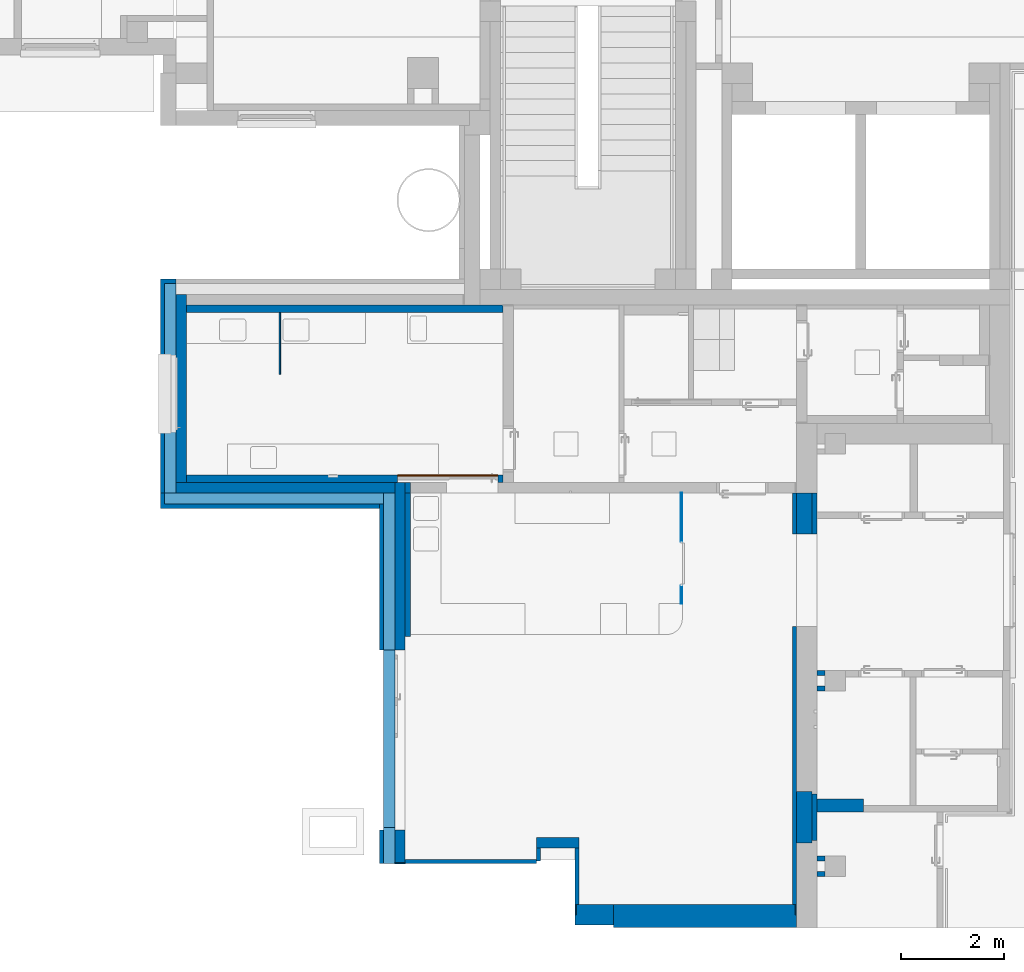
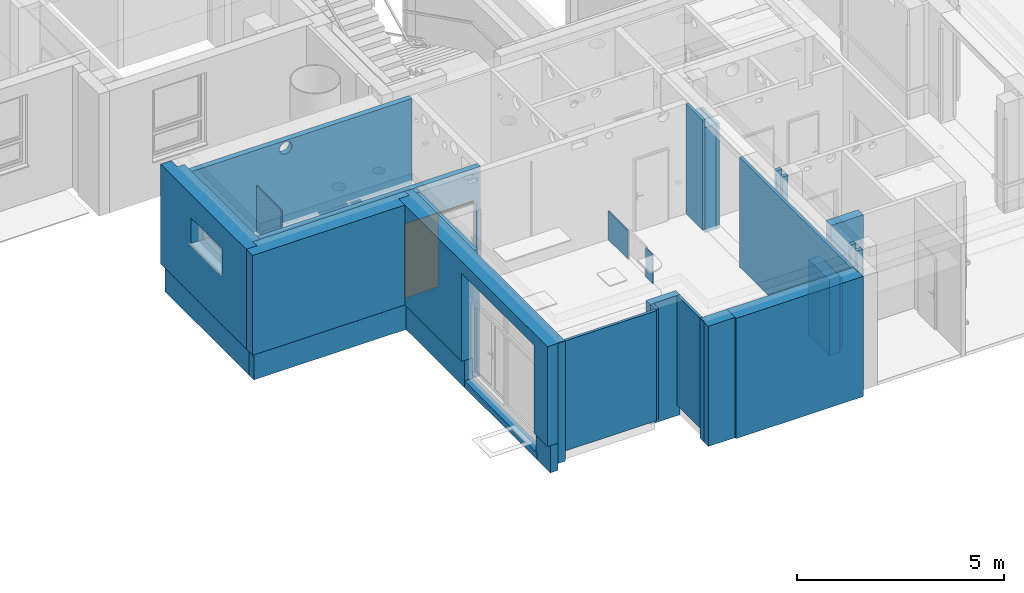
# One storey, part 26 of 140: 33 walls, 1 proxy, 7 openings.
"""IFC4 building model written with IfcOpenShell, lengths in metres."""

from ifc_helpers import new_model, entity, si_unit, converted_unit, derived_unit, frame, frame_2d, origin, origin_with_axes, place, context, subcontext, project, spatial, polyline, rectangle, outline, extrude, clip, bounded_halfspace, faceted_brep, material, layer, layer_set, layer_usage, element, fill, save


model = new_model("IFC4")

# Units and contexts
model_context = context("Model", 3, precision=1e-05, world=origin())
body_context = subcontext(model_context, "Body", "Model", "MODEL_VIEW")
ifc_project = project(units=[si_unit("LENGTHUNIT", "METRE"), si_unit("AREAUNIT", "SQUARE_METRE"), si_unit("VOLUMEUNIT", "CUBIC_METRE"), si_unit("MASSUNIT", "GRAM", prefix="KILO"), converted_unit("PLANEANGLEUNIT", "DEGREE", entity("IfcPlaneAngleMeasure", 0.0174532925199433), si_unit("PLANEANGLEUNIT", "RADIAN"), dimensions=[0, 0, 0, 0, 0, 0, 0]), derived_unit("THERMALTRANSMITTANCEUNIT", [(si_unit("POWERUNIT", "WATT"), 1), (si_unit("THERMODYNAMICTEMPERATUREUNIT", "KELVIN"), -1), (si_unit("LENGTHUNIT", "METRE"), -2)]), derived_unit("VOLUMETRICFLOWRATEUNIT", [(si_unit("LENGTHUNIT", "METRE"), 3), (converted_unit("TIMEUNIT", "hour", entity("IfcTimeMeasure", 3600.0), si_unit("TIMEUNIT", "SECOND"), dimensions=[0, 0, 1, 0, 0, 0, 0]), -1), (si_unit("LENGTHUNIT", "METRE"), -1)])], contexts=[model_context])

# Site, building, storey
site_placement = place(None, origin())
site = spatial("IfcSite", under=ifc_project, at=site_placement, Name="3. ASŘ", CompositionType="ELEMENT")
building_placement = place(site_placement, origin())
building = spatial("IfcBuilding", under=site, at=building_placement, Name="Pavilon C", CompositionType="ELEMENT")
storey_placement = place(building_placement, origin())
storey = spatial("IfcBuildingStorey", under=building, at=storey_placement, Name="Půdorys 1.NP", CompositionType="ELEMENT", Elevation=0.0)

# Walls
ifc_material_1 = material(Name="STÁVAJÍC KCE")
ifc_layer_1 = layer(ifc_material_1, 0.1)
ifc_layer_set_1 = layer_set([ifc_layer_1])
ifc_layer_usage_1 = layer_usage(ifc_layer_set_1, "AXIS2", "POSITIVE", 0.0)
wall_1_placement = place(storey_placement, frame((37.2, -12.0, -0.1)))
element("IfcWall", 1, at=wall_1_placement, inside=storey, material=ifc_layer_usage_1, Name="STÁVAJÍCÍ KCE", context=body_context, shape_type="SweptSolid", body=[
    extrude(rectangle(XDim=0.15, YDim=0.1, at=frame_2d((0.075, 0.05), x_axis=(1.0, 0.0))), origin_with_axes(), (0.0, 0.0, 1.0), 3.35),
])
ifc_material_2 = material(Name="STÁVAJÍC KCE")
ifc_layer_2 = layer(ifc_material_2, 0.1)
ifc_layer_set_2 = layer_set([ifc_layer_2])
ifc_layer_usage_2 = layer_usage(ifc_layer_set_2, "AXIS2", "POSITIVE", 0.0)
wall_2_placement = place(storey_placement, frame((37.2, -15.6, -0.1)))
element("IfcWall", 2, at=wall_2_placement, inside=storey, material=ifc_layer_usage_2, Name="STÁVAJÍCÍ KCE", context=body_context, shape_type="SweptSolid", body=[
    extrude(rectangle(XDim=0.15, YDim=0.1, at=frame_2d((0.075, 0.05), x_axis=(1.0, 0.0))), origin_with_axes(), (0.0, 0.0, 1.0), 3.35),
])
ifc_material_3 = material(Name="STÁVAJÍC KCE")
ifc_layer_3 = layer(ifc_material_3, 0.1)
ifc_layer_set_3 = layer_set([ifc_layer_3])
ifc_layer_usage_3 = layer_usage(ifc_layer_set_3, "AXIS2", "POSITIVE", 0.0)
wall_3_placement = place(storey_placement, frame((37.35, -11.6, -0.1), z_axis=(0.0, 0.0, 1.0), x_axis=(-1.0, 0.0, 0.0)))
element("IfcWall", 3, at=wall_3_placement, inside=storey, material=ifc_layer_usage_3, Name="STÁVAJÍCÍ KCE", context=body_context, shape_type="SweptSolid", body=[
    extrude(rectangle(XDim=0.15, YDim=0.1, at=frame_2d((0.075, 0.05), x_axis=(1.0, 0.0))), origin_with_axes(), (0.0, 0.0, 1.0), 3.35),
])
ifc_material_4 = material(Name="STÁVAJÍC KCE")
ifc_layer_4 = layer(ifc_material_4, 0.1)
ifc_layer_set_4 = layer_set([ifc_layer_4])
ifc_layer_usage_4 = layer_usage(ifc_layer_set_4, "AXIS2", "POSITIVE", 0.0)
wall_4_placement = place(storey_placement, frame((37.35, -15.2, -0.1), z_axis=(0.0, 0.0, 1.0), x_axis=(-1.0, 0.0, 0.0)))
element("IfcWall", 4, at=wall_4_placement, inside=storey, material=ifc_layer_usage_4, Name="STÁVAJÍCÍ KCE", context=body_context, shape_type="SweptSolid", body=[
    extrude(rectangle(XDim=0.15, YDim=0.1, at=frame_2d((0.075, 0.05), x_axis=(1.0, 0.0))), origin_with_axes(), (0.0, 0.0, 1.0), 3.35),
])

# Wall, opening
ifc_material_5 = material(Name="ZELEZOBETONOVÁ KCE")
ifc_layer_5 = layer(ifc_material_5, 0.2)
ifc_material_6 = material(Name="MINERÁLNÍ VATA")
ifc_layer_6 = layer(ifc_material_6, 0.3)
ifc_layer_set_5 = layer_set([ifc_layer_5, ifc_layer_6])
ifc_layer_usage_5 = layer_usage(ifc_layer_set_5, "AXIS2", "POSITIVE", 0.0)
wall_5_placement = place(storey_placement, frame((24.95, -7.95000000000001, -0.3), z_axis=(0.0, 0.0, 1.0), x_axis=(0.0, 1.0, 0.0)))
wall_5 = element("IfcWall", 5, at=wall_5_placement, inside=storey, material=ifc_layer_usage_5, Name="ZELEZOBETONOVÁ KCE", context=body_context, shape_type="Clipping", body=[
    clip(extrude(outline(polyline([(0.200000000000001, -0.5), (3.85000000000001, -0.5), (3.85000000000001, -0.3), (4.15000000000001, -0.3), (4.15000000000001, 0.0), (9.09494701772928e-16, 0.0), (0.0, -0.3), (0.200000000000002, -0.3), (0.200000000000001, -0.5)])), frame((-0.200000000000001, 0.5, 0.0), z_axis=(0.0, 0.0, 1.0), x_axis=(1.0, 0.0, 0.0)), (0.0, 0.0, 1.0), 3.55), bounded_halfspace(frame((1.85833333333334, 0.300000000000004, 0.6), z_axis=(0.0, 0.0, 1.0), x_axis=(-3.03164900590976e-15, -1.0, 0.0)), True, origin_with_axes(), polyline([(-0.199999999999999, 0.5), (-0.2, 0.2), (1.81898940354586e-15, 0.2), (3.65000000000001, 0.2), (3.95000000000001, 0.2), (3.95000000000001, 0.5), (-0.199999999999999, 0.5)]))),
])
opening_1_placement = place(wall_5_placement, frame((2.475, 0.2, 2.1), z_axis=(0.0, -1.0, 0.0), x_axis=(0.0, 0.0, 1.0)))
element("IfcOpeningElement", 6, at=opening_1_placement, cuts=wall_5, Name="Okenní otvor", ObjectType="Opening", context=body_context, shape_type="SweptSolid", body=[
    extrude(outline(polyline([(0.0, 1.5), (0.75, 1.5), (0.75, 0.0), (0.0, 0.0), (0.0, 1.5)])), origin_with_axes(), (0.0, 0.0, 1.0), 0.2),
    extrude(outline(polyline([(0.0, 1.5), (0.75, 1.5), (0.75, 0.0), (0.0, 0.0), (0.0, 1.5)])), frame((0.0, 0.0, -0.3), z_axis=(0.0, 0.0, 1.0), x_axis=(1.0, 0.0, 0.0)), (0.0, 0.0, 1.0), 0.3),
])

ifc_material_7 = material(Name="ZELEZOBETONOVÁ KCE")
ifc_layer_7 = layer(ifc_material_7, 0.2)
ifc_material_8 = material(Name="MINERÁLNÍ VATA")
ifc_layer_8 = layer(ifc_material_8, 0.3)
ifc_layer_set_6 = layer_set([ifc_layer_7, ifc_layer_8])
ifc_layer_usage_6 = layer_usage(ifc_layer_set_6, "AXIS2", "POSITIVE", 0.0)
wall_6_placement = place(storey_placement, frame((29.2, -15.33, -0.3), z_axis=(0.0, 0.0, 1.0), x_axis=(0.0, 1.0, 0.0)))
wall_6 = element("IfcWall", 7, at=wall_6_placement, inside=storey, material=ifc_layer_usage_6, Name="ZELEZOBETONOVÁ KCE", context=body_context, shape_type="Clipping", body=[
    clip(extrude(outline(polyline([(0.02, -0.5), (7.39999999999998, -0.5), (7.39999999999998, -0.3), (7.19999999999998, -0.3), (7.19999999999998, 0.0), (0.0, 0.0), (0.0, -0.3), (0.02, -0.3), (0.02, -0.5)])), frame((-0.02, 0.5, 0.0), z_axis=(0.0, 0.0, 1.0), x_axis=(1.0, 0.0, 0.0)), (0.0, 0.0, 1.0), 3.55), bounded_halfspace(frame((2.86399999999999, 0.32, 0.6), z_axis=(0.0, 0.0, 1.0), x_axis=(0.0, -1.0, 0.0)), True, origin_with_axes(), polyline([(-0.02, 0.5), (-0.02, 0.2), (0.0, 0.2), (7.17999999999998, 0.2), (7.17999999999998, 0.5), (-0.02, 0.5)]))),
])
opening_2_placement = place(wall_6_placement, frame((4.13000000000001, 0.2, 0.0), z_axis=(0.0, -1.0, 0.0), x_axis=(0.0, 0.0, 1.0)))
element("IfcOpeningElement", 8, at=opening_2_placement, cuts=wall_6, Name="Dveřní otvor", ObjectType="Opening", context=body_context, shape_type="SweptSolid", body=[
    extrude(outline(polyline([(0.0, 3.5), (3.2, 3.5), (3.2, 0.0), (0.0, 0.0), (0.0, 3.5)])), origin_with_axes(), (0.0, 0.0, 1.0), 0.2),
    extrude(outline(polyline([(0.0, 3.5), (3.2, 3.5), (3.2, 0.0), (0.0, 0.0), (0.0, 3.5)])), frame((0.0, 0.0, -0.3), z_axis=(0.0, 0.0, 1.0), x_axis=(1.0, 0.0, 0.0)), (0.0, 0.0, 1.0), 0.3),
])

# Walls
ifc_material_9 = material(Name="ZELEZOBETONOVÁ KCE")
wall_7_placement = place(storey_placement, frame((29.3, -7.95000000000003, -0.3), z_axis=(0.0, 0.0, 1.0), x_axis=(-1.0, 3.39811207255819e-15, 0.0)))
element("IfcWall", 9, at=wall_7_placement, inside=storey, material=ifc_material_9, Name="ZELEZOBETONOVÁ KCE", context=body_context, shape_type="Clipping", body=[
    clip(extrude(outline(polyline([(-4.55, -0.500000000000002), (-0.299999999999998, -0.500000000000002), (-0.299999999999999, -0.3), (1.01943362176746e-15, -0.3), (0.0, 0.0), (-4.25, -2.71749021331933e-14), (-4.25, -0.300000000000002), (-4.55, -0.300000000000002), (-4.55, -0.500000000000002)])), frame((4.85, 0.500000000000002, 0.0), z_axis=(0.0, 0.0, 1.0), x_axis=(1.0, 0.0, 0.0)), (0.0, 0.0, 1.0), 3.55), bounded_halfspace(frame((3.09, 0.319999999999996, 0.6), z_axis=(0.0, 0.0, 1.0), x_axis=(3.39811207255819e-15, -1.0, 0.0)), True, origin_with_axes(), polyline([(0.599999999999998, 0.499999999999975), (0.599999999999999, 0.2), (4.55, 0.200000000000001), (4.85, 0.200000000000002), (4.85, 0.500000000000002), (0.599999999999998, 0.499999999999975)]))),
    clip(extrude(rectangle(XDim=0.2, YDim=0.1, at=frame_2d((0.0500000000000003, -0.0999999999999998), x_axis=(3.39811207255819e-15, -1.0))), frame((-6.79622414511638e-16, 0.2, 0.0), z_axis=(0.0, 0.0, 1.0), x_axis=(1.0, 0.0, 0.0)), (0.0, 0.0, 1.0), 3.55), bounded_halfspace(frame((3.09, 0.319999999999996, 0.6), z_axis=(0.0, 0.0, 1.0), x_axis=(3.39811207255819e-15, -1.0, 0.0)), True, origin_with_axes(), polyline([(0.599999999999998, 0.499999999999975), (0.599999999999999, 0.2), (4.55, 0.200000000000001), (4.85, 0.200000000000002), (4.85, 0.500000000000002), (0.599999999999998, 0.499999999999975)]))),
])
ifc_material_10 = material(Name="ZELEZOBETONOVÁ KCE")
ifc_layer_9 = layer(ifc_material_10, 0.2)
ifc_layer_set_7 = layer_set([ifc_layer_9])
ifc_layer_usage_7 = layer_usage(ifc_layer_set_7, "AXIS2", "POSITIVE", -0.1)
wall_8_placement = place(storey_placement, frame((32.575, -14.845, -0.3), z_axis=(0.0, 0.0, 1.0), x_axis=(-1.0, 0.0, 0.0)))
element("IfcWall", 10, at=wall_8_placement, inside=storey, material=ifc_layer_usage_7, Name="ZELEZOBETONOVÁ KCE", context=body_context, shape_type="SweptSolid", body=[
    extrude(rectangle(XDim=0.825, YDim=0.2, at=frame_2d((0.4125, 0.1), x_axis=(1.0, 0.0))), origin_with_axes(), (0.0, 0.0, 1.0), 3.55),
])
ifc_material_11 = material(Name="ZELEZOBETONOVÁ KCE")
ifc_layer_10 = layer(ifc_material_11, 0.199999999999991)
ifc_material_12 = material(Name="EPS")
ifc_layer_11 = layer(ifc_material_12, 0.25)
ifc_layer_set_8 = layer_set([ifc_layer_10, ifc_layer_11])
ifc_layer_usage_8 = layer_usage(ifc_layer_set_8, "AXIS2", "POSITIVE", -0.1)
wall_9_placement = place(storey_placement, frame((36.78, -16.145, -0.3), z_axis=(0.0, 0.0, 1.0), x_axis=(-1.0, -8.24471117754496e-15, 0.0)))
element("IfcWall", 11, at=wall_9_placement, inside=storey, material=ifc_layer_usage_8, Name="ZELEZOBETONOVÁ KCE", context=body_context, shape_type="SweptSolid", body=[
    extrude(outline(polyline([(-3.55, 1.64894223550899e-16), (-3.55, -0.250000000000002), (-3.53, -0.250000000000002), (-3.53, -0.449999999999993), (-3.71012002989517e-15, -0.449999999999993), (0.0, 0.0), (-3.55, 1.64894223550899e-16)])), frame((3.53, 0.449999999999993, 0.0), z_axis=(0.0, 0.0, 1.0), x_axis=(1.0, 0.0, 0.0)), (0.0, 0.0, 1.0), 3.55),
])
ifc_material_13 = material(Name="ZELEZOBETONOVÁ KCE")
ifc_layer_12 = layer(ifc_material_13, 0.199999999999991)
ifc_material_14 = material(Name="EPS")
ifc_layer_13 = layer(ifc_material_14, 0.199999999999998)
ifc_layer_set_9 = layer_set([ifc_layer_12, ifc_layer_13])
ifc_layer_usage_9 = layer_usage(ifc_layer_set_9, "AXIS2", "POSITIVE", -0.1)
wall_10_placement = place(storey_placement, frame((33.25, -16.145, -0.3), z_axis=(0.0, 0.0, 1.0), x_axis=(-1.0, -7.4752989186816e-15, 0.0)))
element("IfcWall", 12, at=wall_10_placement, inside=storey, material=ifc_layer_usage_9, Name="ZELEZOBETONOVÁ KCE", context=body_context, shape_type="SweptSolid", body=[
    extrude(outline(polyline([(-0.750000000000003, -0.399999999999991), (-0.020000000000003, -0.399999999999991), (-0.0200000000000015, -0.2), (-1.49505978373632e-15, -0.2), (0.0, 0.0), (-0.75, 1.96849538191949e-15), (-0.750000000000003, -0.399999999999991)])), frame((0.750000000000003, 0.399999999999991, 0.0), z_axis=(0.0, 0.0, 1.0), x_axis=(1.0, 0.0, 0.0)), (0.0, 0.0, 1.0), 3.55),
])
ifc_material_15 = material(Name="PERIMETR")
ifc_layer_14 = layer(ifc_material_15, 0.22)
ifc_layer_set_10 = layer_set([ifc_layer_14])
ifc_layer_usage_10 = layer_usage(ifc_layer_set_10, "AXIS2", "POSITIVE", 0.0)
wall_11_placement = place(storey_placement, frame((29.0, -15.35, -0.5), z_axis=(0.0, 0.0, 1.0), x_axis=(0.0, 1.0, 0.0)))
element("IfcWall", 13, at=wall_11_placement, inside=storey, material=ifc_layer_usage_10, Name="PERIMETR", context=body_context, shape_type="Clipping", body=[
    clip(extrude(rectangle(XDim=0.7, YDim=0.22, at=frame_2d((0.35, 0.11), x_axis=(1.0, 0.0))), origin_with_axes(), (0.0, 0.0, 1.0), 0.8), bounded_halfspace(frame((0.675, 0.11, 0.2), z_axis=(0.0, 0.0, 1.0), x_axis=(1.0, 0.0, 0.0)), True, origin_with_axes(), polyline([(0.65, 0.0), (0.7, 0.0), (0.7, 0.22), (0.65, 0.22), (0.65, 0.0)]))),
])
ifc_material_16 = material(Name="PERIMETR")
ifc_layer_15 = layer(ifc_material_16, 0.22)
ifc_layer_set_11 = layer_set([ifc_layer_15])
ifc_layer_usage_11 = layer_usage(ifc_layer_set_11, "AXIS2", "POSITIVE", 0.0)
wall_12_placement = place(storey_placement, frame((29.0, -11.2, -0.5), z_axis=(0.0, 0.0, 1.0), x_axis=(0.0, 1.0, 0.0)))
element("IfcWall", 14, at=wall_12_placement, inside=storey, material=ifc_layer_usage_11, Name="PERIMETR", context=body_context, shape_type="SweptSolid", body=[
    extrude(rectangle(XDim=3.04999999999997, YDim=0.22, at=frame_2d((1.52499999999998, 0.11), x_axis=(1.0, 0.0))), origin_with_axes(), (0.0, 0.0, 1.0), 0.8),
])
ifc_material_17 = material(Name="PERIMETR")
ifc_layer_16 = layer(ifc_material_17, 0.219999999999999)
ifc_layer_set_12 = layer_set([ifc_layer_16])
ifc_layer_usage_12 = layer_usage(ifc_layer_set_12, "AXIS2", "POSITIVE", 0.0)
wall_13_placement = place(storey_placement, frame((28.78, -8.15000000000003, -0.5), z_axis=(0.0, 0.0, 1.0), x_axis=(-1.0, 2.13998753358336e-16, 0.0)))
element("IfcWall", 15, at=wall_13_placement, inside=storey, material=ifc_layer_usage_12, Name="PERIMETR", context=body_context, shape_type="SweptSolid", body=[
    extrude(rectangle(XDim=4.25, YDim=0.219999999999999, at=frame_2d((2.125, 0.11), x_axis=(1.0, 0.0))), origin_with_axes(), (0.0, 0.0, 1.0), 0.8),
])
ifc_material_18 = material(Name="PERIMETR")
ifc_layer_17 = layer(ifc_material_18, 0.22)
ifc_layer_set_13 = layer_set([ifc_layer_17])
ifc_layer_usage_13 = layer_usage(ifc_layer_set_13, "AXIS2", "POSITIVE", 0.0)
wall_14_placement = place(storey_placement, frame((24.75, -8.15000000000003, -0.5), z_axis=(0.0, 0.0, 1.0), x_axis=(0.0, 1.0, 0.0)))
element("IfcWall", 16, at=wall_14_placement, inside=storey, material=ifc_layer_usage_13, Name="PERIMETR", context=body_context, shape_type="SweptSolid", body=[
    extrude(rectangle(XDim=4.07000000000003, YDim=0.22, at=frame_2d((2.03500000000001, 0.11), x_axis=(1.0, 0.0))), origin_with_axes(), (0.0, 0.0, 1.0), 0.8),
])
ifc_material_19 = material(Name="PERIMETR")
ifc_layer_18 = layer(ifc_material_19, 0.22)
ifc_layer_set_14 = layer_set([ifc_layer_18])
ifc_layer_usage_14 = layer_usage(ifc_layer_set_14, "AXIS2", "POSITIVE", 0.0)
wall_15_placement = place(storey_placement, frame((29.0, -14.7, -0.5), z_axis=(0.0, 0.0, 1.0), x_axis=(0.0, 1.0, 0.0)))
element("IfcWall", 17, at=wall_15_placement, inside=storey, material=ifc_layer_usage_14, Name="PERIMETR", context=body_context, shape_type="SweptSolid", body=[
    extrude(rectangle(XDim=3.50000000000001, YDim=0.22, at=frame_2d((1.75, 0.11), x_axis=(1.0, 0.0))), origin_with_axes(), (0.0, 0.0, 1.0), 0.2),
])
ifc_material_20 = material(Name="EPS")
ifc_layer_19 = layer(ifc_material_20, 0.02)
ifc_layer_set_15 = layer_set([ifc_layer_19])
ifc_layer_usage_15 = layer_usage(ifc_layer_set_15, "AXIS2", "POSITIVE", 0.0)
wall_16_placement = place(storey_placement, frame((36.78, -16.145, -0.3), z_axis=(0.0, 0.0, 1.0), x_axis=(3.63797880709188e-14, -1.0, 0.0)))
element("IfcWall", 18, at=wall_16_placement, inside=storey, material=ifc_layer_usage_15, Name="EPS", context=body_context, shape_type="SweptSolid", body=[
    extrude(rectangle(XDim=0.199999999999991, YDim=0.02, at=frame_2d((0.0999999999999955, 0.01), x_axis=(1.0, 0.0))), origin_with_axes(), (0.0, 0.0, 1.0), 3.55),
])
ifc_material_21 = material(Name="EPS")
ifc_layer_20 = layer(ifc_material_21, 0.02)
ifc_layer_set_16 = layer_set([ifc_layer_20])
ifc_layer_usage_16 = layer_usage(ifc_layer_set_16, "AXIS2", "POSITIVE", 0.0)
wall_17_placement = place(storey_placement, frame((32.5, -16.145, -0.3), z_axis=(0.0, 0.0, 1.0), x_axis=(3.63797880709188e-14, -1.0, 0.0)))
element("IfcWall", 19, at=wall_17_placement, inside=storey, material=ifc_layer_usage_16, Name="EPS", context=body_context, shape_type="SweptSolid", body=[
    extrude(rectangle(XDim=0.199999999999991, YDim=0.02, at=frame_2d((0.0999999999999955, 0.01), x_axis=(1.0, 0.0))), origin_with_axes(), (0.0, 0.0, 1.0), 3.55),
])
ifc_material_22 = material(Name="EPS")
ifc_layer_21 = layer(ifc_material_22, 0.02)
ifc_layer_set_17 = layer_set([ifc_layer_21])
ifc_layer_usage_17 = layer_usage(ifc_layer_set_17, "AXIS2", "POSITIVE", 0.0)
wall_18_placement = place(storey_placement, frame((29.2, -15.33, -0.3), z_axis=(0.0, 0.0, 1.0), x_axis=(-1.0, 0.0, 0.0)))
element("IfcWall", 20, at=wall_18_placement, inside=storey, material=ifc_layer_usage_17, Name="EPS", context=body_context, shape_type="SweptSolid", body=[
    extrude(rectangle(XDim=0.2, YDim=0.02, at=frame_2d((0.1, 0.01), x_axis=(1.0, 0.0))), origin_with_axes(), (0.0, 0.0, 1.0), 3.55),
])
ifc_material_23 = material(Name="YTONG 300")
ifc_layer_22 = layer(ifc_material_23, 0.3)
ifc_layer_set_18 = layer_set([ifc_layer_22])
ifc_layer_usage_18 = layer_usage(ifc_layer_set_18, "AXIS2", "POSITIVE", 0.0)
wall_19_placement = place(storey_placement, frame((37.1, -8.95, -0.1), z_axis=(0.0, 0.0, 1.0), x_axis=(0.0, 1.0, 0.0)))
element("IfcWall", 21, at=wall_19_placement, inside=storey, material=ifc_layer_usage_18, Name="YTONG 300", context=body_context, shape_type="SweptSolid", body=[
    extrude(rectangle(XDim=0.8, YDim=0.3, at=frame_2d((0.4, 0.15), x_axis=(1.0, 0.0))), origin_with_axes(), (0.0, 0.0, 1.0), 3.1),
])
ifc_material_24 = material(Name="YTONG 300")
ifc_layer_23 = layer(ifc_material_24, 0.3)
ifc_layer_set_19 = layer_set([ifc_layer_23])
ifc_layer_usage_19 = layer_usage(ifc_layer_set_19, "AXIS2", "POSITIVE", 0.0)
wall_20_placement = place(storey_placement, frame((36.8, -13.95, -0.1), z_axis=(0.0, 0.0, 1.0), x_axis=(0.0, -1.0, 0.0)))
element("IfcWall", 22, at=wall_20_placement, inside=storey, material=ifc_layer_usage_19, Name="YTONG 300", context=body_context, shape_type="SweptSolid", body=[
    extrude(rectangle(XDim=1.0, YDim=0.3, at=frame_2d((0.5, 0.15), x_axis=(1.0, 0.0))), origin_with_axes(), (0.0, 0.0, 1.0), 2.25),
])
ifc_material_25 = material(Name="YTONG 100")
ifc_layer_24 = layer(ifc_material_25, 0.1)
ifc_layer_set_20 = layer_set([ifc_layer_24])
ifc_layer_usage_20 = layer_usage(ifc_layer_set_20, "AXIS2", "POSITIVE", 0.0)
wall_21_placement = place(storey_placement, frame((37.2, -14.9, -0.1), z_axis=(0.0, 0.0, 1.0), x_axis=(0.0, 1.0, 0.0)))
element("IfcWall", 23, at=wall_21_placement, inside=storey, material=ifc_layer_usage_20, Name="YTONG 100", context=body_context, shape_type="SweptSolid", body=[
    extrude(rectangle(XDim=0.9, YDim=0.1, at=frame_2d((0.45, 0.05), x_axis=(1.0, 0.0))), origin_with_axes(), (0.0, 0.0, 1.0), 2.12),
])
ifc_material_26 = material(Name="YTONG 100")
ifc_layer_25 = layer(ifc_material_26, 0.1)
ifc_layer_set_21 = layer_set([ifc_layer_25])
ifc_layer_usage_21 = layer_usage(ifc_layer_set_21, "AXIS2", "POSITIVE", 0.0)
wall_22_placement = place(storey_placement, frame((37.2, -8.95, -0.1), z_axis=(0.0, 0.0, 1.0), x_axis=(0.0, 1.0, 0.0)))
element("IfcWall", 24, at=wall_22_placement, inside=storey, material=ifc_layer_usage_21, Name="YTONG 100", context=body_context, shape_type="SweptSolid", body=[
    extrude(rectangle(XDim=0.8, YDim=0.1, at=frame_2d((0.4, 0.05), x_axis=(1.0, 0.0))), origin_with_axes(), (0.0, 0.0, 1.0), 3.1),
])
ifc_material_27 = material(Name="DĚLÍCÍ PŘÍČKA")
ifc_layer_26 = layer(ifc_material_27, 0.032)
ifc_layer_set_22 = layer_set([ifc_layer_26])
ifc_layer_usage_22 = layer_usage(ifc_layer_set_22, "AXIS2", "POSITIVE", 0.0)
wall_23_placement = place(storey_placement, frame((26.75, -4.65000000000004, 0.0), z_axis=(0.0, 0.0, 1.0), x_axis=(0.0, -1.0, 0.0)))
element("IfcWall", 25, at=wall_23_placement, inside=storey, material=ifc_layer_usage_22, Name="DĚLÍCÍ PŘÍČKA", context=body_context, shape_type="SweptSolid", body=[
    extrude(rectangle(XDim=1.2, YDim=0.032, at=frame_2d((0.6, 0.016), x_axis=(1.0, 0.0))), origin_with_axes(), (0.0, 0.0, 1.0), 2.2),
])

# Wall, opening
ifc_material_28 = material(Name="DĚLÍCÍ PŘÍČKA")
ifc_layer_27 = layer(ifc_material_28, 0.032)
ifc_layer_set_23 = layer_set([ifc_layer_27])
ifc_layer_usage_23 = layer_usage(ifc_layer_set_23, "AXIS2", "POSITIVE", 0.0)
wall_24_placement = place(storey_placement, frame((34.55, -8.14999999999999, 0.0), z_axis=(0.0, 0.0, 1.0), x_axis=(0.0, -1.0, 0.0)))
wall_24 = element("IfcWall", 26, at=wall_24_placement, inside=storey, material=ifc_layer_usage_23, Name="DĚLÍCÍ PŘÍČKA", context=body_context, shape_type="SweptSolid", body=[
    extrude(rectangle(XDim=2.15000000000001, YDim=0.032, at=frame_2d((1.075, 0.016), x_axis=(1.0, 0.0))), origin_with_axes(), (0.0, 0.0, 1.0), 0.85),
])
opening_3_placement = place(wall_24_placement, frame((1.80500000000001, 0.032, 0.0), z_axis=(0.0, -1.0, 0.0), x_axis=(0.0, 0.0, 1.0)))
element("IfcOpeningElement", 27, at=opening_3_placement, cuts=wall_24, Name="Dveřní otvor", ObjectType="Opening", context=body_context, shape_type="SweptSolid", body=[
    extrude(outline(polyline([(0.0, 0.86), (0.85, 0.86), (0.85, 0.0), (0.0, 0.0), (0.0, 0.86)])), origin_with_axes(), (0.0, 0.0, 1.0), 0.032),
])

ifc_material_29 = material(Name="SDK INSTAL. PŘDSTĚNA VYSOKÁ")
ifc_layer_28 = layer(ifc_material_29, 0.15)
ifc_layer_set_24 = layer_set([ifc_layer_28])
ifc_layer_usage_24 = layer_usage(ifc_layer_set_24, "AXIS2", "POSITIVE", 0.0)
wall_25_placement = place(storey_placement, frame((31.1, -4.50000000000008, 0.0), z_axis=(0.0, 0.0, 1.0), x_axis=(-1.0, 1.31617932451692e-14, 0.0)))
wall_25 = element("IfcWall", 28, at=wall_25_placement, inside=storey, material=ifc_layer_usage_24, Name="SDK INSTAL. PŘDSTĚNA VYSOKÁ", context=body_context, shape_type="SweptSolid", body=[
    extrude(rectangle(XDim=6.15, YDim=0.15, at=frame_2d((3.075, 0.075), x_axis=(1.0, 0.0))), origin_with_axes(), (0.0, 0.0, 1.0), 3.25),
])
opening_4_placement = place(wall_25_placement, frame((3.35117435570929, 5.95688739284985e-14, 2.855), z_axis=(-1.2126596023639e-14, 1.0, 0.0), x_axis=(0.0, 0.0, 1.0)))
element("IfcOpeningElement", 29, at=opening_4_placement, cuts=wall_25, Name="VZT", ObjectType="Opening", context=body_context, shape_type="SweptSolid", body=[
    extrude(outline(polyline([(0.175, 0.35), (0.193292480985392, 0.349041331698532), (0.21138454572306, 0.34617583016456), (0.229077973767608, 0.341434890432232), (0.246178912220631, 0.334870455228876), (0.262499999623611, 0.326554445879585), (0.277862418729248, 0.316577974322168), (0.292097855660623, 0.305050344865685), (0.305050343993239, 0.292097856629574), (0.316577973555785, 0.277862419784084), (0.326554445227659, 0.262500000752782), (0.334870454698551, 0.246178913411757), (0.341434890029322, 0.229077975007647), (0.346175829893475, 0.211384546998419), (0.349041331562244, 0.193292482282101), (0.35, 0.175000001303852), (0.349041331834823, 0.156707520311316), (0.346175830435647, 0.138615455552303), (0.341434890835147, 0.120922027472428), (0.334870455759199, 0.103821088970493), (0.326554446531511, 0.0875000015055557), (0.316577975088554, 0.0721375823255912), (0.305050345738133, 0.057902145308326), (0.292097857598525, 0.0449496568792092), (0.277862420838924, 0.0334220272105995), (0.262500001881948, 0.0234455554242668), (0.246178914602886, 0.0151295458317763), (0.229077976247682, 0.00856511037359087), (0.211384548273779, 0.00382417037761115), (0.19329248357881, 0.000958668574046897), (0.174999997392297, 0.0), (0.15670751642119, 0.000958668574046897), (0.138615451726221, 0.00382417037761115), (0.120922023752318, 0.00856511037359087), (0.103821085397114, 0.0151295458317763), (0.0874999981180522, 0.0234455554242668), (0.0721375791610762, 0.0334220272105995), (0.0579021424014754, 0.0449496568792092), (0.0449496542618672, 0.057902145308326), (0.0334220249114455, 0.0721375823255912), (0.0234455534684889, 0.0875000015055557), (0.0151295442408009, 0.103821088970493), (0.00856510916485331, 0.120922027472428), (0.00382416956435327, 0.138615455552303), (0.000958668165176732, 0.156707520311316), (0.0, 0.175000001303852), (0.000958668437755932, 0.193292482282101), (0.00382417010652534, 0.211384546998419), (0.0085651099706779, 0.229077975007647), (0.0151295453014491, 0.246178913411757), (0.0234455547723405, 0.262500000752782), (0.0334220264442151, 0.277862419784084), (0.044949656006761, 0.292097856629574), (0.0579021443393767, 0.305050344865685), (0.0721375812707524, 0.316577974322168), (0.0875000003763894, 0.326554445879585), (0.103821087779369, 0.334870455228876), (0.120922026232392, 0.341434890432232), (0.13861545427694, 0.34617583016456), (0.156707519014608, 0.349041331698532), (0.175, 0.35)])), origin_with_axes(), (0.0, 0.0, 1.0), 0.15),
])

# Walls
ifc_material_30 = material(Name="SDK INSTAL. PŘDSTĚNA VYSOKÁ")
ifc_layer_29 = layer(ifc_material_30, 0.1)
ifc_layer_set_25 = layer_set([ifc_layer_29])
ifc_layer_usage_25 = layer_usage(ifc_layer_set_25, "AXIS2", "POSITIVE", 0.0)
wall_26_placement = place(storey_placement, frame((29.2, -8.15000000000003, 0.0), z_axis=(0.0, 0.0, 1.0), x_axis=(0.0, -1.0, 0.0)))
element("IfcWall", 30, at=wall_26_placement, inside=storey, material=ifc_layer_usage_25, Name="SDK INSTAL. PŘDSTĚNA VYSOKÁ", context=body_context, shape_type="SweptSolid", body=[
    extrude(rectangle(XDim=2.786, YDim=0.1, at=frame_2d((1.393, 0.05), x_axis=(1.0, 0.0))), origin_with_axes(), (0.0, 0.0, 1.0), 3.25),
])
ifc_material_31 = material(Name="SDK OPL. PROFESÍ/SDK OPL. BEZ PO")
ifc_layer_30 = layer(ifc_material_31, 0.075)
ifc_layer_set_26 = layer_set([ifc_layer_30])
ifc_layer_usage_26 = layer_usage(ifc_layer_set_26, "AXIS2", "POSITIVE", 0.0)
wall_27_placement = place(storey_placement, frame((31.75, -15.045, 0.0), z_axis=(0.0, 0.0, 1.0), x_axis=(0.0, -1.0, 0.0)))
element("IfcWall", 31, at=wall_27_placement, inside=storey, material=ifc_layer_usage_26, Name="SDK OPL. PROFESÍ/SDK OPL. BEZ PO", context=body_context, shape_type="SweptSolid", body=[
    extrude(rectangle(XDim=0.255, YDim=0.075, at=frame_2d((0.1275, 0.0375), x_axis=(1.0, 0.0))), origin_with_axes(), (0.0, 0.0, 1.0), 3.25),
])
ifc_material_32 = material(Name="SDK OPL. PROFESÍ/SDK OPL. BEZ PO")
ifc_layer_31 = layer(ifc_material_32, 0.075)
ifc_layer_set_27 = layer_set([ifc_layer_31])
ifc_layer_usage_27 = layer_usage(ifc_layer_set_27, "AXIS2", "POSITIVE", 0.0)
wall_28_placement = place(storey_placement, frame((32.5, -15.045, 0.0), z_axis=(0.0, 0.0, 1.0), x_axis=(0.0, -1.0, 0.0)))
element("IfcWall", 32, at=wall_28_placement, inside=storey, material=ifc_layer_usage_27, Name="SDK OPL. PROFESÍ/SDK OPL. BEZ PO", context=body_context, shape_type="SweptSolid", body=[
    extrude(rectangle(XDim=1.10000000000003, YDim=0.075, at=frame_2d((0.550000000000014, 0.0375), x_axis=(1.0, 0.0))), origin_with_axes(), (0.0, 0.0, 1.0), 3.25),
])
ifc_material_33 = material(Name="SDK OPL. PROFESÍ/SDK OPL. BEZ PO")
ifc_layer_32 = layer(ifc_material_33, 0.075)
ifc_layer_set_28 = layer_set([ifc_layer_32])
ifc_layer_usage_28 = layer_usage(ifc_layer_set_28, "AXIS2", "POSITIVE", 0.0)
wall_29_placement = place(storey_placement, frame((36.8, -16.145, 0.0), z_axis=(0.0, 0.0, 1.0), x_axis=(0.0, 1.0, 0.0)))
element("IfcWall", 33, at=wall_29_placement, inside=storey, material=ifc_layer_usage_28, Name="SDK OPL. PROFESÍ/SDK OPL. BEZ PO", context=body_context, shape_type="SweptSolid", body=[
    extrude(rectangle(XDim=5.395, YDim=0.075, at=frame_2d((2.6975, 0.0375), x_axis=(1.0, 0.0))), origin_with_axes(), (0.0, 0.0, 1.0), 3.25),
])
ifc_material_34 = material(Name="SDK OPL. PROFESÍ/SDK OPL. BEZ PO")
ifc_layer_33 = layer(ifc_material_34, 0.075)
ifc_layer_set_29 = layer_set([ifc_layer_33])
ifc_layer_usage_29 = layer_usage(ifc_layer_set_29, "AXIS2", "POSITIVE", 0.0)
wall_30_placement = place(storey_placement, frame((36.8, -8.95, 0.0), z_axis=(0.0, 0.0, 1.0), x_axis=(0.0, 1.0, 0.0)))
element("IfcWall", 34, at=wall_30_placement, inside=storey, material=ifc_layer_usage_29, Name="SDK OPL. PROFESÍ/SDK OPL. BEZ PO", context=body_context, shape_type="SweptSolid", body=[
    extrude(rectangle(XDim=0.799999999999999, YDim=0.075, at=frame_2d((0.4, 0.0375), x_axis=(1.0, 0.0))), origin_with_axes(), (0.0, 0.0, 1.0), 3.25),
])
ifc_material_35 = material(Name="SDK OPL. PROFESÍ/SDK OPL. BEZ PO")
ifc_layer_34 = layer(ifc_material_35, 0.075)
ifc_layer_set_30 = layer_set([ifc_layer_34])
ifc_layer_usage_30 = layer_usage(ifc_layer_set_30, "AXIS2", "POSITIVE", 0.0)
wall_31_placement = place(storey_placement, frame((29.2, -15.35, 0.0)))
element("IfcWall", 35, at=wall_31_placement, inside=storey, material=ifc_layer_usage_30, Name="SDK OPL. PROFESÍ/SDK OPL. BEZ PO", context=body_context, shape_type="SweptSolid", body=[
    extrude(rectangle(XDim=2.55, YDim=0.075, at=frame_2d((1.275, 0.0375), x_axis=(1.0, 0.0))), origin_with_axes(), (0.0, 0.0, 1.0), 3.25),
])
ifc_material_36 = material(Name="SDK - 2 KCE + DVOJITÉ OPLÁŠTĚNÍ")
ifc_layer_35 = layer(ifc_material_36, 0.25)
ifc_layer_set_31 = layer_set([ifc_layer_35])
ifc_layer_usage_31 = layer_usage(ifc_layer_set_31, "AXIS2", "POSITIVE", 0.0)
wall_32_placement = place(storey_placement, frame((37.2, -14.3500000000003, -0.1)))
element("IfcWall", 36, at=wall_32_placement, inside=storey, material=ifc_layer_usage_31, Name="SDK - 2 KCE + DVOJITÉ OPLÁŠTĚNÍ", context=body_context, shape_type="SweptSolid", body=[
    extrude(rectangle(XDim=0.9, YDim=0.25, at=frame_2d((0.45, 0.125), x_axis=(1.0, 0.0))), origin_with_axes(), (0.0, 0.0, 1.0), 3.35),
])

# Wall, openings, proxy
ifc_material_37 = material(Name="SDK INSTAL. PŘDSTĚNA VYSOKÁ")
ifc_layer_36 = layer(ifc_material_37, 0.15)
ifc_layer_set_32 = layer_set([ifc_layer_36])
ifc_layer_usage_32 = layer_usage(ifc_layer_set_32, "AXIS2", "POSITIVE", 0.0)
wall_33_placement = place(storey_placement, frame((24.95, -7.95000000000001, 0.0)))
wall_33 = element("IfcWall", 37, at=wall_33_placement, inside=storey, material=ifc_layer_usage_32, Name="SDK INSTAL. PŘDSTĚNA VYSOKÁ", context=body_context, shape_type="SweptSolid", body=[
    extrude(rectangle(XDim=6.15, YDim=0.15, at=frame_2d((3.075, 0.075), x_axis=(1.0, 0.0))), origin_with_axes(), (0.0, 0.0, 1.0), 3.25),
])
opening_5_placement = place(wall_33_placement, frame((6.05, 0.15, 0.0), z_axis=(0.0, -1.0, 0.0), x_axis=(0.0, 0.0, 1.0)))
opening_5 = element("IfcOpeningElement", 38, at=opening_5_placement, cuts=wall_33, Name="Dveřní otvor", ObjectType="Opening", context=body_context, shape_type="SweptSolid", body=[
    extrude(outline(polyline([(0.0, 1.945), (2.19, 1.945), (2.19, 0.0), (0.0, 0.0), (0.0, 1.945)])), origin_with_axes(), (0.0, 0.0, 1.0), 0.15),
])
opening_6_placement = place(wall_33_placement, frame((2.94999999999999, 0.149999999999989, 2.35), z_axis=(0.0, -1.0, 0.0), x_axis=(0.0, 0.0, 1.0)))
element("IfcOpeningElement", 39, at=opening_6_placement, cuts=wall_33, Name="Stěnová nika", ObjectType="Opening", context=body_context, shape_type="SweptSolid", body=[
    extrude(outline(polyline([(0.0, 0.2), (0.2, 0.2), (0.2, 0.0), (0.0, 0.0), (0.0, 0.2)])), origin_with_axes(), (0.0, 0.0, 1.0), 0.05),
])
opening_7_placement = place(wall_33_placement, frame((5.68750000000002, 0.0, 3.0), z_axis=(0.0, 1.0, 0.0), x_axis=(0.0, 0.0, 1.0)))
element("IfcOpeningElement", 40, at=opening_7_placement, cuts=wall_33, Name="Prostup stěnou", ObjectType="Opening", context=body_context, shape_type="SweptSolid", body=[
    extrude(outline(polyline([(0.0, 0.275), (0.11, 0.275), (0.11, 0.0), (0.0, 0.0), (0.0, 0.275)])), origin_with_axes(), (0.0, 0.0, 1.0), 0.15),
])
ifc_material_38 = material(Name="SDK INSTAL. PŘDSTĚNA VYSOKÁ")
proxy_placement = place(opening_5_placement, frame((0.0, 1.945, 0.025)))
proxy = element("IfcBuildingElementProxy", 41, at=proxy_placement, inside=storey, material=ifc_material_38, context=body_context, shape_type="Brep", body=[
    faceted_brep([(0.0, 0.0, 1.77635683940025e-18), (0.0, 0.0, -0.025), (2.19, 0.0, -0.025), (2.19, 0.0, 1.77635683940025e-18), (2.19, -1.945, -0.025), (2.19, -1.945, 1.77635683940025e-18), (0.0, -0.945, -0.025), (0.0, -0.945, 1.77635683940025e-18), (2.13, -1.945, 1.77635683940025e-18), (2.13, -0.945, 1.77635683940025e-18), (2.13, -0.945, -0.025), (2.13, -1.945, -0.025)], [[[0, 1, 2, 3]], [[2, 4, 5, 3]], [[6, 1, 0, 7]], [[7, 0, 3, 5, 8, 9]], [[1, 6, 10, 11, 4, 2]], [[6, 7, 9, 10]], [[11, 8, 5, 4]], [[8, 11, 10, 9]]], orient=[[False], [False], [False], [False], [False], [False], [False], [False]]),
])
fill(opening_5, proxy)

save(model, "model.ifc")
